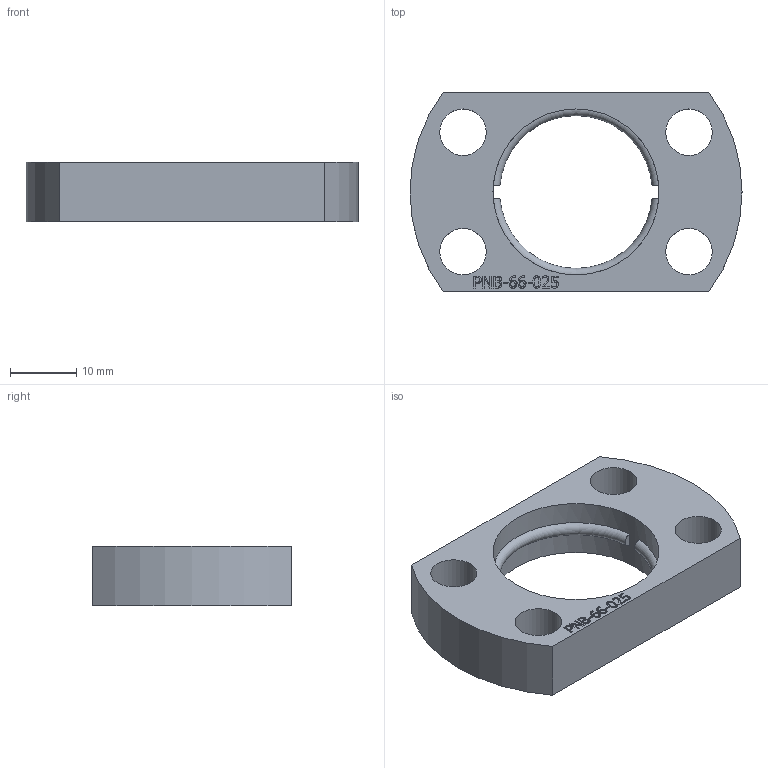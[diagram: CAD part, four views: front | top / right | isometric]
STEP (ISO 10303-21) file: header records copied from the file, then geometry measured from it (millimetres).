
FILE_DESCRIPTION(/* description */ (''),/* implementation_level */ '2;1');
FILE_NAME(/* name */ 'C:\Users\Jefferson\Desktop\Biblioteca Pro Nitro 2024 - Inventor\Flanges\PNB-66-025\PNB-66-025.stp',/* time_stamp */ '2025-01-02T09:29:42-03:00',/* author */ ('Jefferson'),/* organization */ (''),/* preprocessor_version */ 'ST-DEVELOPER v19',/* originating_system */ 'Autodesk Inventor 2023',/* authorisation */ '');
FILE_SCHEMA (('AUTOMOTIVE_DESIGN { 1 0 10303 214 3 1 1 }'));
Length unit declared in the file: millimetre
Products named in the file (1): PNB-66-025
Bounding box: 50 x 30 x 9 mm (x, y, z)
Volume: 6948.2 mm3; surface area: 4403.2 mm2
Topology: 1 solids, 1 shells, 182 faces, 486 edges, 324 vertices
Faces by surface type: bspline 96, plane 77, cylinder 7, torus 2
Full cylindrical faces by diameter (mm): 7 x4, 25 x1
Entity records: 6291 total; most frequent: CARTESIAN_POINT 2309, ORIENTED_EDGE 972, EDGE_CURVE 486, DIRECTION 482, VERTEX_POINT 324, LINE 272, VECTOR 272, EDGE_LOOP 210
